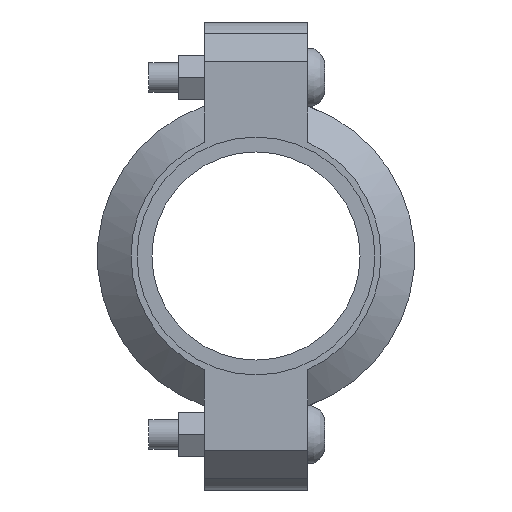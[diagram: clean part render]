
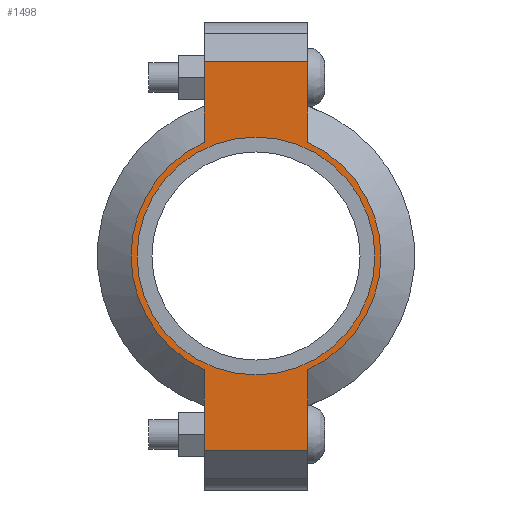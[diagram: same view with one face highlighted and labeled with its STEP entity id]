
A CAD part, left-side view. The second image highlights one B-rep face of the part: STEP entity #1498.
In plain terms, the highlighted planar face has unit normal (-1, 0, 0) as drawn and (0, 0, 1) by its records, which use the part's own axes.
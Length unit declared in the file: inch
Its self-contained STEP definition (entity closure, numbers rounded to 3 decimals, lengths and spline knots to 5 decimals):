
#160=LINE('',#2613,#253);
#173=LINE('',#2657,#266);
#178=LINE('',#2681,#271);
#185=LINE('',#2699,#278);
#192=LINE('',#2724,#285);
#193=LINE('',#2727,#286);
#253=VECTOR('',#2089,0.3937);
#266=VECTOR('',#2118,0.3937);
#271=VECTOR('',#2129,0.3937);
#278=VECTOR('',#2146,0.3937);
#285=VECTOR('',#2167,0.3937);
#286=VECTOR('',#2172,0.3937);
#334=FACE_BOUND('',#494,.T.);
#399=FACE_OUTER_BOUND('',#493,.T.);
#493=EDGE_LOOP('',(#1247,#1248,#1249,#1250,#1251,#1252,#1253,#1254));
#494=EDGE_LOOP('',(#1255));
#590=CIRCLE('',#1761,1.575);
#591=CIRCLE('',#1762,1.575);
#592=CIRCLE('',#1763,1.5);
#693=VERTEX_POINT('',#2608);
#694=VERTEX_POINT('',#2612);
#710=VERTEX_POINT('',#2654);
#711=VERTEX_POINT('',#2656);
#717=VERTEX_POINT('',#2676);
#718=VERTEX_POINT('',#2680);
#723=VERTEX_POINT('',#2696);
#724=VERTEX_POINT('',#2698);
#730=VERTEX_POINT('',#2729);
#860=EDGE_CURVE('',#694,#693,#160,.T.);
#880=EDGE_CURVE('',#711,#710,#173,.T.);
#889=EDGE_CURVE('',#718,#717,#178,.T.);
#898=EDGE_CURVE('',#724,#723,#185,.T.);
#910=EDGE_CURVE('',#718,#710,#192,.T.);
#911=EDGE_CURVE('',#717,#724,#590,.T.);
#912=EDGE_CURVE('',#694,#723,#193,.T.);
#913=EDGE_CURVE('',#693,#711,#591,.T.);
#914=EDGE_CURVE('',#730,#730,#592,.T.);
#1247=ORIENTED_EDGE('',*,*,#910,.F.);
#1248=ORIENTED_EDGE('',*,*,#889,.T.);
#1249=ORIENTED_EDGE('',*,*,#911,.T.);
#1250=ORIENTED_EDGE('',*,*,#898,.T.);
#1251=ORIENTED_EDGE('',*,*,#912,.F.);
#1252=ORIENTED_EDGE('',*,*,#860,.T.);
#1253=ORIENTED_EDGE('',*,*,#913,.T.);
#1254=ORIENTED_EDGE('',*,*,#880,.T.);
#1255=ORIENTED_EDGE('',*,*,#914,.T.);
#1351=PLANE('',#1760);
#1498=ADVANCED_FACE('',(#399,#334),#1351,.T.);
#1760=AXIS2_PLACEMENT_3D('',#2725,#2168,#2169);
#1761=AXIS2_PLACEMENT_3D('',#2726,#2170,#2171);
#1762=AXIS2_PLACEMENT_3D('',#2728,#2173,#2174);
#1763=AXIS2_PLACEMENT_3D('',#2730,#2175,#2176);
#2089=DIRECTION('',(1.,0.,0.));
#2118=DIRECTION('',(1.,0.,0.));
#2129=DIRECTION('',(-1.,0.,0.));
#2146=DIRECTION('',(-1.,0.,0.));
#2167=DIRECTION('',(0.,-1.,0.));
#2168=DIRECTION('center_axis',(0.,0.,1.));
#2169=DIRECTION('ref_axis',(-1.,0.,0.));
#2170=DIRECTION('center_axis',(0.,0.,1.));
#2171=DIRECTION('ref_axis',(1.,0.,0.));
#2172=DIRECTION('',(0.,1.,0.));
#2173=DIRECTION('center_axis',(0.,0.,1.));
#2174=DIRECTION('ref_axis',(1.,0.,0.));
#2175=DIRECTION('center_axis',(0.,0.,-1.));
#2176=DIRECTION('ref_axis',(1.,0.,0.));
#2608=CARTESIAN_POINT('',(-1.43462,-0.65,0.94));
#2612=CARTESIAN_POINT('',(-2.45,-0.65,0.94));
#2613=CARTESIAN_POINT('',(2.95,-0.65,0.94));
#2654=CARTESIAN_POINT('',(2.45,-0.65,0.94));
#2656=CARTESIAN_POINT('',(1.43462,-0.65,0.94));
#2657=CARTESIAN_POINT('',(2.95,-0.65,0.94));
#2676=CARTESIAN_POINT('',(1.43462,0.65,0.94));
#2680=CARTESIAN_POINT('',(2.45,0.65,0.94));
#2681=CARTESIAN_POINT('',(-2.95,0.65,0.94));
#2696=CARTESIAN_POINT('',(-2.45,0.65,0.94));
#2698=CARTESIAN_POINT('',(-1.43462,0.65,0.94));
#2699=CARTESIAN_POINT('',(-2.95,0.65,0.94));
#2724=CARTESIAN_POINT('',(2.45,-0.325,0.94));
#2725=CARTESIAN_POINT('Origin',(0.,0.,
0.94));
#2726=CARTESIAN_POINT('Origin',(0.,0.,0.94));
#2727=CARTESIAN_POINT('',(-2.45,0.325,0.94));
#2728=CARTESIAN_POINT('Origin',(0.,0.,0.94));
#2729=CARTESIAN_POINT('',(-1.5,0.,0.94));
#2730=CARTESIAN_POINT('Origin',(0.,0.,0.94));
